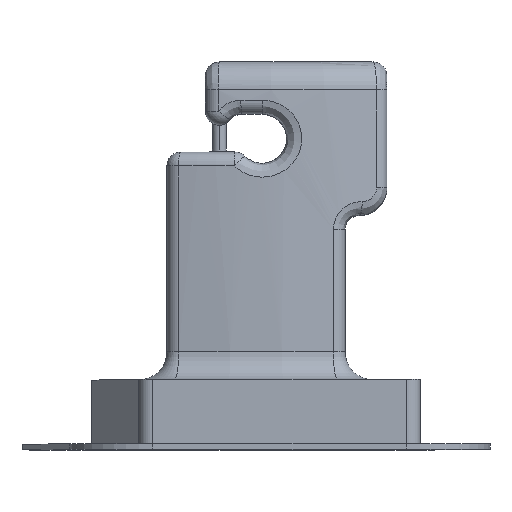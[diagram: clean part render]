
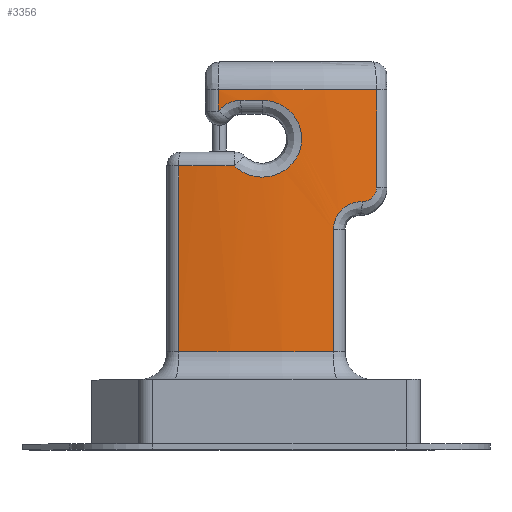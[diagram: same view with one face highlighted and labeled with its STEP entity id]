
A CAD part, top view. The second image highlights one B-rep face of the part: STEP entity #3356.
In plain terms, the highlighted cylindrical face has radius 34.167 mm (diameter 68.334 mm), a partial arc.
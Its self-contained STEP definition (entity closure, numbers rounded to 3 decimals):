
#34=CARTESIAN_POINT('',(-2.704,3.5,3.393));
#41=CARTESIAN_POINT('',(8.628,3.5,2.393));
#57=CARTESIAN_POINT('',(0.,3.5,-30.667));
#58=DIRECTION('',(0.,-1.,0.));
#59=DIRECTION('',(0.253,0.,0.968));
#60=AXIS2_PLACEMENT_3D('',#57,#58,#59);
#509=DIRECTION('',(0.,-1.,0.));
#510=VECTOR('',#509,1.524);
#511=CARTESIAN_POINT('',(-2.704,3.5,3.393));
#512=LINE('',#511,#510);
#513=DIRECTION('',(0.,1.,0.));
#514=VECTOR('',#513,7.);
#515=CARTESIAN_POINT('',(8.628,-3.5,2.393));
#516=LINE('',#515,#514);
#517=CARTESIAN_POINT('',(7.597,-4.5,2.645));
#518=CARTESIAN_POINT('',(7.643,-4.5,2.634));
#519=CARTESIAN_POINT('',(7.732,-4.494,2.614));
#520=CARTESIAN_POINT('',(7.864,-4.469,2.583));
#521=CARTESIAN_POINT('',(7.992,-4.427,2.552));
#522=CARTESIAN_POINT('',(8.112,-4.369,2.523));
#523=CARTESIAN_POINT('',(8.224,-4.297,2.495));
#524=CARTESIAN_POINT('',(8.325,-4.211,2.47));
#525=CARTESIAN_POINT('',(8.414,-4.114,2.448));
#526=CARTESIAN_POINT('',(8.489,-4.006,2.429));
#527=CARTESIAN_POINT('',(8.549,-3.891,2.413));
#528=CARTESIAN_POINT('',(8.593,-3.768,2.402));
#529=CARTESIAN_POINT('',(8.621,-3.636,2.394));
#530=CARTESIAN_POINT('',(8.628,-3.546,2.393));
#531=CARTESIAN_POINT('',(8.628,-3.5,2.393));
#533=CARTESIAN_POINT('',(0.,-15.25,-30.667));
#534=DIRECTION('',(0.,-1.,0.));
#535=DIRECTION('',(0.162,0.,0.987));
#536=AXIS2_PLACEMENT_3D('',#533,#534,#535);
#538=DIRECTION('',(0.,-1.,0.));
#539=VECTOR('',#538,13.3);
#540=CARTESIAN_POINT('',(-5.537,-1.95,3.048));
#541=LINE('',#540,#539);
#542=CARTESIAN_POINT('',(0.,-1.95,-30.667));
#543=DIRECTION('',(0.,-1.,0.));
#544=DIRECTION('',(-0.045,0.,0.999));
#545=AXIS2_PLACEMENT_3D('',#542,#543,#544);
#547=CARTESIAN_POINT('',(0.443,2.75,3.497));
#548=CARTESIAN_POINT('',(0.564,2.75,3.496));
#549=CARTESIAN_POINT('',(0.806,2.735,3.491));
#550=CARTESIAN_POINT('',(1.166,2.667,3.481));
#551=CARTESIAN_POINT('',(1.511,2.555,3.467));
#552=CARTESIAN_POINT('',(1.836,2.403,3.451));
#553=CARTESIAN_POINT('',(2.139,2.212,3.433));
#554=CARTESIAN_POINT('',(2.412,1.987,3.415));
#555=CARTESIAN_POINT('',(2.653,1.731,3.397));
#556=CARTESIAN_POINT('',(2.859,1.45,3.38));
#557=CARTESIAN_POINT('',(3.026,1.147,3.366));
#558=CARTESIAN_POINT('',(3.152,0.828,3.354));
#559=CARTESIAN_POINT('',(3.237,0.497,3.346));
#560=CARTESIAN_POINT('',(3.278,0.159,3.342));
#561=CARTESIAN_POINT('',(3.277,-0.182,3.342));
#562=CARTESIAN_POINT('',(3.232,-0.52,3.347));
#563=CARTESIAN_POINT('',(3.144,-0.852,3.355));
#564=CARTESIAN_POINT('',(3.014,-1.172,3.367));
#565=CARTESIAN_POINT('',(2.843,-1.475,3.382));
#566=CARTESIAN_POINT('',(2.633,-1.756,3.399));
#567=CARTESIAN_POINT('',(2.387,-2.011,3.417));
#568=CARTESIAN_POINT('',(2.108,-2.234,3.435));
#569=CARTESIAN_POINT('',(1.8,-2.423,3.453));
#570=CARTESIAN_POINT('',(1.469,-2.571,3.469));
#571=CARTESIAN_POINT('',(1.122,-2.678,3.482));
#572=CARTESIAN_POINT('',(0.763,-2.74,3.492));
#573=CARTESIAN_POINT('',(0.4,-2.757,3.498));
#574=CARTESIAN_POINT('',(0.038,-2.729,3.501));
#575=CARTESIAN_POINT('',(-0.318,-2.657,
3.499));
#576=CARTESIAN_POINT('',(-0.662,-2.54,
3.494));
#577=CARTESIAN_POINT('',(-0.987,-2.383,
3.486));
#578=CARTESIAN_POINT('',(-1.289,-2.186,3.476));
#579=CARTESIAN_POINT('',(-1.469,-2.032,3.469));
#580=CARTESIAN_POINT('',(-1.555,-1.95,3.465));
#582=CARTESIAN_POINT('',(0.,2.75,-30.667));
#583=DIRECTION('',(0.,1.,0.));
#584=DIRECTION('',(-0.032,0.,1.));
#585=AXIS2_PLACEMENT_3D('',#582,#583,#584);
#587=CARTESIAN_POINT('',(-2.704,1.976,3.393));
#588=CARTESIAN_POINT('',(-2.648,2.046,3.397));
#589=CARTESIAN_POINT('',(-2.529,2.176,3.406));
#590=CARTESIAN_POINT('',(-2.335,2.34,3.42));
#591=CARTESIAN_POINT('',(-2.118,2.482,3.435));
#592=CARTESIAN_POINT('',(-1.886,2.595,3.448));
#593=CARTESIAN_POINT('',(-1.64,2.68,3.461));
#594=CARTESIAN_POINT('',(-1.366,2.737,3.473));
#595=CARTESIAN_POINT('',(-1.175,2.75,3.48));
#596=CARTESIAN_POINT('',(-1.077,2.75,3.483));
#855=DIRECTION('',(0.,1.,0.));
#856=VECTOR('',#855,8.75);
#857=CARTESIAN_POINT('',(5.537,-15.25,3.048));
#858=LINE('',#857,#856);
#859=CARTESIAN_POINT('',(5.537,-6.5,3.048));
#860=CARTESIAN_POINT('',(5.537,-6.416,3.048));
#861=CARTESIAN_POINT('',(5.548,-6.249,3.047));
#862=CARTESIAN_POINT('',(5.597,-5.997,3.038));
#863=CARTESIAN_POINT('',(5.681,-5.751,3.025));
#864=CARTESIAN_POINT('',(5.796,-5.518,3.005));
#865=CARTESIAN_POINT('',(5.942,-5.3,2.98));
#866=CARTESIAN_POINT('',(6.116,-5.102,2.948));
#867=CARTESIAN_POINT('',(6.316,-4.926,2.911));
#868=CARTESIAN_POINT('',(6.541,-4.776,2.868));
#869=CARTESIAN_POINT('',(6.786,-4.655,2.82));
#870=CARTESIAN_POINT('',(7.048,-4.566,2.765));
#871=CARTESIAN_POINT('',(7.321,-4.512,2.707));
#872=CARTESIAN_POINT('',(7.505,-4.5,2.666));
#873=CARTESIAN_POINT('',(7.597,-4.5,2.645));
#2019=CARTESIAN_POINT('',(5.537,-15.25,3.048));
#2020=VERTEX_POINT('',#2019);
#2023=CARTESIAN_POINT('',(-5.537,-15.25,3.048));
#2024=VERTEX_POINT('',#2023);
#2145=VERTEX_POINT('',#41);
#2147=CARTESIAN_POINT('',(8.628,-3.5,2.393));
#2148=VERTEX_POINT('',#2147);
#2162=CARTESIAN_POINT('',(5.537,-6.5,3.048));
#2164=VERTEX_POINT('',#2162);
#2165=CARTESIAN_POINT('',(7.597,-4.5,2.645));
#2166=VERTEX_POINT('',#2165);
#2203=VERTEX_POINT('',#34);
#2205=CARTESIAN_POINT('',(-2.704,1.976,3.393));
#2206=VERTEX_POINT('',#2205);
#2211=VERTEX_POINT('',#596);
#2213=CARTESIAN_POINT('',(0.443,2.75,3.497));
#2214=VERTEX_POINT('',#2213);
#2217=VERTEX_POINT('',#580);
#2221=CARTESIAN_POINT('',(-5.537,-1.95,3.048));
#2222=VERTEX_POINT('',#2221);
#3328=CARTESIAN_POINT('',(0.,-22.25,-30.667));
#3329=DIRECTION('',(0.,1.,0.));
#3330=DIRECTION('',(0.,0.,-1.));
#3331=AXIS2_PLACEMENT_3D('',#3328,#3329,#3330);
#3332=CYLINDRICAL_SURFACE('',#3331,34.167);
#3334=ORIENTED_EDGE('',*,*,#3333,.F.);
#3335=ORIENTED_EDGE('',*,*,#2566,.F.);
#3337=ORIENTED_EDGE('',*,*,#3336,.F.);
#3339=ORIENTED_EDGE('',*,*,#3338,.F.);
#3341=ORIENTED_EDGE('',*,*,#3340,.F.);
#3343=ORIENTED_EDGE('',*,*,#3342,.F.);
#3345=ORIENTED_EDGE('',*,*,#3344,.T.);
#3346=ORIENTED_EDGE('',*,*,#3294,.F.);
#3347=ORIENTED_EDGE('',*,*,#3319,.F.);
#3349=ORIENTED_EDGE('',*,*,#3348,.F.);
#3351=ORIENTED_EDGE('',*,*,#3350,.F.);
#3353=ORIENTED_EDGE('',*,*,#3352,.F.);
#3354=EDGE_LOOP('',(#3334,#3335,#3337,#3339,#3341,#3343,#3345,#3346,#3347,#3349,
#3351,#3353));
#3355=FACE_OUTER_BOUND('',#3354,.F.);
#3356=ADVANCED_FACE('',(#3355),#3332,.T.);
#61=CIRCLE('',#60,34.167);
#532=B_SPLINE_CURVE_WITH_KNOTS('',3,(#517,#518,#519,#520,#521,#522,#523,#524,
#525,#526,#527,#528,#529,#530,#531),.UNSPECIFIED.,.F.,.F.,(4,1,1,1,1,1,1,1,1,1,
1,1,4),(0.,0.083,0.167,0.25,0.333,
0.417,0.5,0.583,0.667,0.75,
0.833,0.917,1.),.UNSPECIFIED.);
#537=CIRCLE('',#536,34.167);
#546=CIRCLE('',#545,34.167);
#581=B_SPLINE_CURVE_WITH_KNOTS('',3,(#547,#548,#549,#550,#551,#552,#553,#554,
#555,#556,#557,#558,#559,#560,#561,#562,#563,#564,#565,#566,#567,#568,#569,#570,
#571,#572,#573,#574,#575,#576,#577,#578,#579,#580),.UNSPECIFIED.,.F.,.F.,(4,1,1,
1,1,1,1,1,1,1,1,1,1,1,1,1,1,1,1,1,1,1,1,1,1,1,1,1,1,1,1,4),(0.,
0.032,0.065,0.097,0.129,
0.161,0.194,0.226,0.258,
0.29,0.323,0.355,0.387,
0.419,0.452,0.484,0.516,
0.548,0.581,0.613,0.645,
0.677,0.71,0.742,0.774,
0.806,0.839,0.871,0.903,
0.935,0.968,1.),.UNSPECIFIED.);
#586=CIRCLE('',#585,34.167);
#597=B_SPLINE_CURVE_WITH_KNOTS('',3,(#587,#588,#589,#590,#591,#592,#593,#594,
#595,#596),.UNSPECIFIED.,.F.,.F.,(4,1,1,1,1,1,1,4),(0.,0.143,
0.286,0.429,0.571,0.714,
0.857,1.),.UNSPECIFIED.);
#874=B_SPLINE_CURVE_WITH_KNOTS('',3,(#859,#860,#861,#862,#863,#864,#865,#866,
#867,#868,#869,#870,#871,#872,#873),.UNSPECIFIED.,.F.,.F.,(4,1,1,1,1,1,1,1,1,1,
1,1,4),(0.,0.083,0.167,0.25,0.333,
0.417,0.5,0.583,0.667,0.75,
0.833,0.917,1.),.UNSPECIFIED.);
#2566=EDGE_CURVE('',#2145,#2203,#61,.T.);
#3294=EDGE_CURVE('',#2222,#2024,#541,.T.);
#3319=EDGE_CURVE('',#2217,#2222,#546,.T.);
#3333=EDGE_CURVE('',#2203,#2206,#512,.T.);
#3336=EDGE_CURVE('',#2148,#2145,#516,.T.);
#3338=EDGE_CURVE('',#2166,#2148,#532,.T.);
#3340=EDGE_CURVE('',#2164,#2166,#874,.T.);
#3342=EDGE_CURVE('',#2020,#2164,#858,.T.);
#3344=EDGE_CURVE('',#2020,#2024,#537,.T.);
#3348=EDGE_CURVE('',#2214,#2217,#581,.T.);
#3350=EDGE_CURVE('',#2211,#2214,#586,.T.);
#3352=EDGE_CURVE('',#2206,#2211,#597,.T.);
